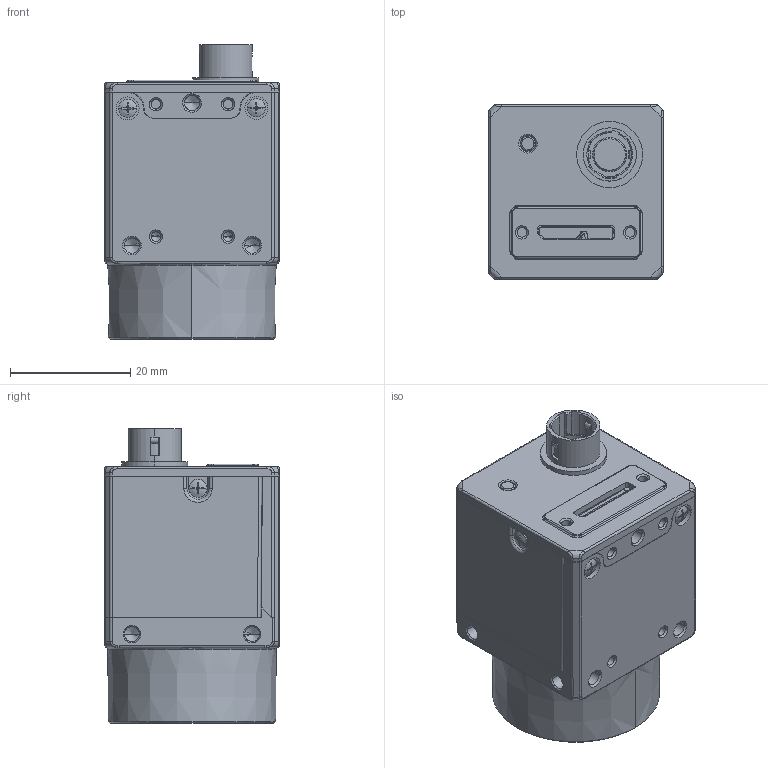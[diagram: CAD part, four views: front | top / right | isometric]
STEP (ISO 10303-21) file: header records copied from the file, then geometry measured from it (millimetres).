
FILE_DESCRIPTION((''),'2;1');
FILE_NAME('MV-CS004-10U_ASM','2022-08-02T21:02:30',('sunli10'),(''),'CREO PARAMETRIC BY PTC INC, 2017260','CREO PARAMETRIC BY PTC INC, 2017260','');
FILE_SCHEMA(('CONFIG_CONTROL_DESIGN'));
Length unit declared in the file: millimetre
Products named in the file (5): MSBR-4; MSBR-3; MSBR-2; MSBR-1; MV-CS004-10U_ASM
Assembly tree (4 placements, depth 2):
  MV-CS004-10U_ASM
    MSBR-4
    MSBR-3
    MSBR-2
    MSBR-1
Bounding box: 29.03 x 29 x 48.98 mm (x, y, z)
Volume: 26817.6 mm3; surface area: 12966.5 mm2
Topology: 4 solids, 15 shells, 1245 faces, 3323 edges, 2104 vertices
Faces by surface type: plane 610, cylinder 429, cone 91, torus 50, bspline 50, sphere 15
Entity records: 43705 total; most frequent: CARTESIAN_POINT 12571, ORIENTED_EDGE 6598, DIRECTION 6467, EDGE_CURVE 3299, AXIS2_PLACEMENT_3D 2315, VERTEX_POINT 2104, VECTOR 1837, LINE 1837
